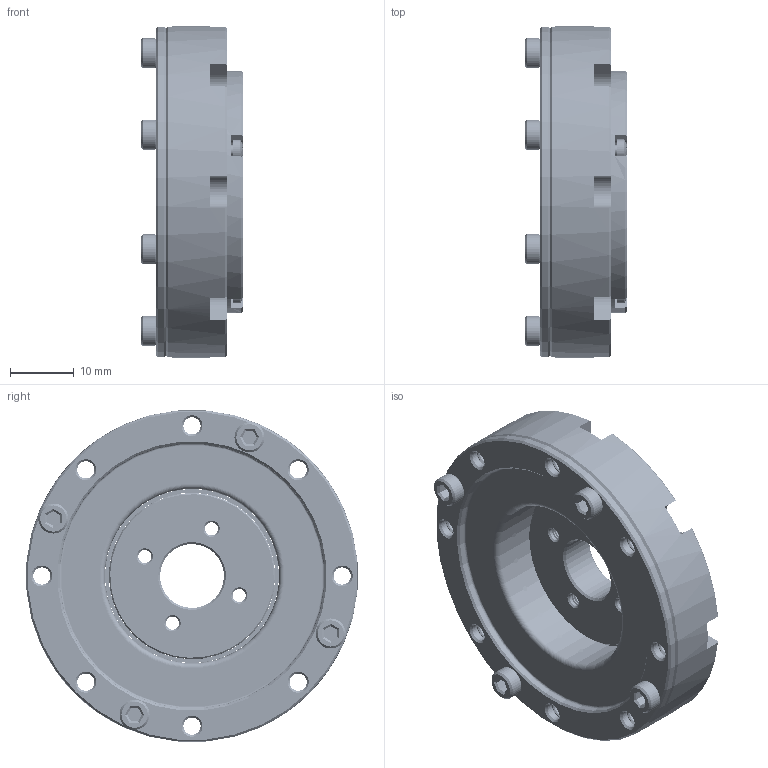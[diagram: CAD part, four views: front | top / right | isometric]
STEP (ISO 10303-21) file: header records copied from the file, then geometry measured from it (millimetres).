
FILE_DESCRIPTION(/* description */ (''),/* implementation_level */ '2;1');
FILE_NAME(/* name */ 'XBD11.stp',/* time_stamp */ '2023-02-20T14:33:36+08:00',/* author */ (''),/* organization */ (''),/* preprocessor_version */ 'ST-DEVELOPER v16',/* originating_system */ 'SIEMENS PLM Software NX 10.0',/* authorisation */ '');
FILE_SCHEMA (('CONFIG_CONTROL_DESIGN'));
Products named in the file (1): XBD11
Bounding box: 16.06 x 51.97 x 51.97 mm (x, y, z)
Volume: 17072 mm3; surface area: 23427.9 mm2
Topology: 91 solids, 91 shells, 1962 faces, 4859 edges, 3042 vertices
Faces by surface type: cylinder 946, plane 397, cone 289, torus 218, bspline 83, sphere 29
Full cylindrical faces by diameter (mm): 2.7 x12, 4.7 x4, 19.8 x1, 20.73 x1, 21.93 x2, 26.062 x2, 27.262 x1, 27.3 x1, 28.64 x1, 29.2 x1, 37.75 x1, 41.6 x1, 52 x1
Entity records: 170693 total; most frequent: CARTESIAN_POINT 127499, ORIENTED_EDGE 9324, DIRECTION 8137, EDGE_CURVE 4662, AXIS2_PLACEMENT_3D 3271, VERTEX_POINT 3000, EDGE_LOOP 2153, ADVANCED_FACE 1962
